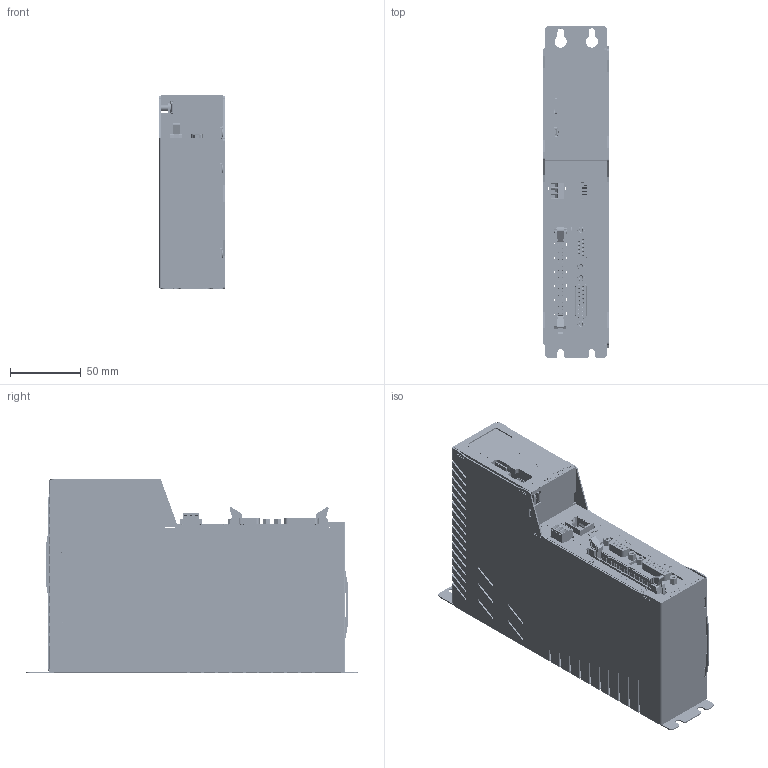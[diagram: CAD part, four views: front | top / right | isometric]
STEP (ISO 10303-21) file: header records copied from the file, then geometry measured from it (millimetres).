
FILE_DESCRIPTION (( 'STEP AP203' ), '1' );
FILE_NAME ('PULSER3-ECAT.STEP', '2022-04-16T10:45:59', ( '' ), ( '' ), 'SwSTEP 2.0', 'SolidWorks 2019', '' );
FILE_SCHEMA (( 'CONFIG_CONTROL_DESIGN' ));
Length unit declared in the file: millimetre
Products named in the file (93): 61204022121_05; 61204022121_19; 61204022121; 61204022121_20; M3x10mm_pirinçDistans; 61204022121_35; 20020110d031a01lf_03; 61204022121_09; Pulser3_Part002_displayPcb; 20020110d031a01lf; PULSER3-ECAT; 20020004d031b01lf_03; Pulser3ekranPleksi_Part01; Pulser3RtexKasa_Part02; M3x6bombeALLENvida; 61204022121_13; sd; 61204022121_06; Pulser3_Asm001_mainPcbToplu; 61204022121_08; 61204022121_26; slot; Pulser3membran_Part01; 61204022121_16; 61204022121_43; 61204022121_34; Pulser3RtexKasa_Part06; 61204022121_03; 61204022121_02; cakmaDistans_M3x6mm; 20020110d031a01lf_02; 61204022121_42; USB_Mini_B_SMD_buchse_Standard; 691313510003_01; 20020110d031a01lf_05; pulser3ekranPleksi3mm_asm01; 61204022121_22; 61204022121_37; Pulser3_Asm002_encMpgPcbToplu; 61204022121_39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
Assembly tree (122 placements, depth 5):
  PULSER3-ECAT
    Pulser3RtexKasa_Part01
    M3-5-Ezilmis_percin  x9
    Pulser3_Asm001_mainPcbToplu
      Pulser3_Part001_MainPcb
      691313510003
        691313510003_01
        691313510003_02
        691313510003_03
        691313510003_04
      RJ45pcbLEDSIZ
      RJ45disiKonnektorLEDSIZ  x2
      Pulser3_Part002_displayPcb
      OLED-128x64-0.96
      microSD_Toplu
        sd
          sd
        slot
          slot
      20020110d031a01lf
        20020110d031a01lf_01
        20020110d031a01lf_02
        20020110d031a01lf_03
        20020110d031a01lf_04
        20020110d031a01lf_05
      61204022121
        61204022121_01
        61204022121_02
        61204022121_03
        61204022121_04
        61204022121_05
        61204022121_06
        61204022121_07
        61204022121_08
        61204022121_09
        61204022121_10
        61204022121_11
        61204022121_12
        61204022121_13
        61204022121_14
        61204022121_15
        61204022121_16
        61204022121_17
        61204022121_18
        61204022121_19
        61204022121_20
        61204022121_21
        61204022121_22
        61204022121_23
        61204022121_24
        61204022121_25
        61204022121_26
        61204022121_27
        61204022121_28
        61204022121_29
        61204022121_30
        61204022121_31
        61204022121_32
        61204022121_33
        61204022121_34
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Bounding box: 46 x 234 x 137.4 mm (x, y, z)
Volume: 169210.6 mm3; surface area: 291790.1 mm2
Topology: 118 solids, 118 shells, 10588 faces, 28358 edges, 18463 vertices
Faces by surface type: plane 7781, cylinder 1727, bspline 961, cone 72, torus 47
Entity records: 332067 total; most frequent: CARTESIAN_POINT 94451, ORIENTED_EDGE 49516, DIRECTION 42181, EDGE_CURVE 24758, LINE 20161, VECTOR 20161, VERTEX_POINT 16159, AXIS2_PLACEMENT_3D 11010
